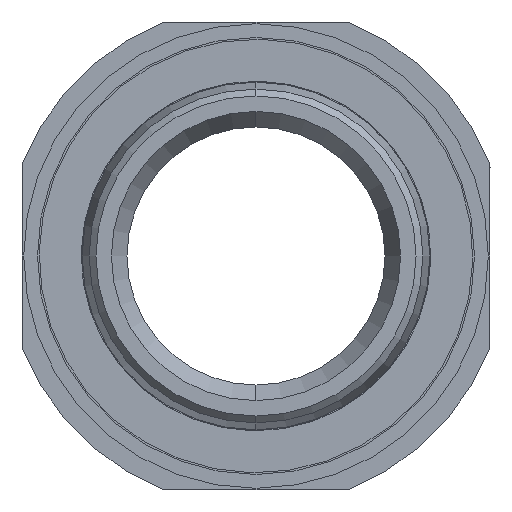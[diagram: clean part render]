
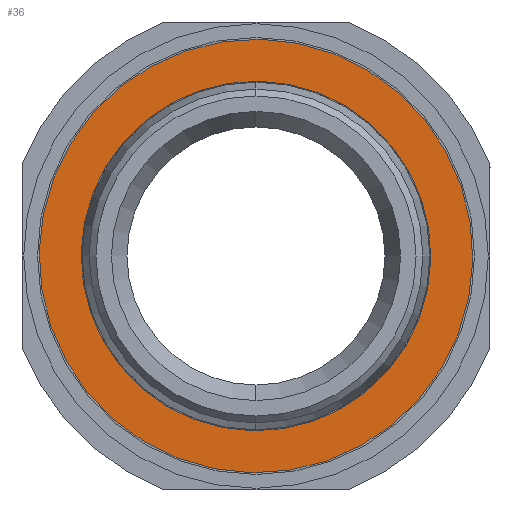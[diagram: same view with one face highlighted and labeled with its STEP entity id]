
A CAD part, left-side view. The second image highlights one B-rep face of the part: STEP entity #36.
In plain terms, the highlighted planar face has unit normal (-1, 0, 0).
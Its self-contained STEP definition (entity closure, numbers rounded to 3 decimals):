
#15 = VERTEX_POINT ( 'NONE', #1581 ) ;
#36 = ADVANCED_FACE ( 'NONE', ( #571, #518 ), #1675, .F. ) ;
#136 = CIRCLE ( 'NONE', #422, 25.4 ) ;
#178 = CIRCLE ( 'NONE', #351, 25.4 ) ;
#239 = CIRCLE ( 'NONE', #382, 31.5 ) ;
#274 = CIRCLE ( 'NONE', #379, 31.5 ) ;
#351 = AXIS2_PLACEMENT_3D ( 'NONE', #1278, #1131, #1169 ) ;
#379 = AXIS2_PLACEMENT_3D ( 'NONE', #1386, #991, #1094 ) ;
#382 = AXIS2_PLACEMENT_3D ( 'NONE', #1244, #1238, #1237 ) ;
#422 = AXIS2_PLACEMENT_3D ( 'NONE', #1399, #1097, #1052 ) ;
#462 = VERTEX_POINT ( 'NONE', #1651 ) ;
#467 = VERTEX_POINT ( 'NONE', #1479 ) ;
#512 = ORIENTED_EDGE ( 'NONE', *, *, #1886, .F. ) ;
#513 = EDGE_LOOP ( 'NONE', ( #825, #512 ) ) ;
#518 = FACE_BOUND ( 'NONE', #673, .T. ) ;
#571 = FACE_OUTER_BOUND ( 'NONE', #513, .T. ) ;
#673 = EDGE_LOOP ( 'NONE', ( #692, #750 ) ) ;
#692 = ORIENTED_EDGE ( 'NONE', *, *, #1785, .T. ) ;
#750 = ORIENTED_EDGE ( 'NONE', *, *, #1776, .T. ) ;
#825 = ORIENTED_EDGE ( 'NONE', *, *, #1866, .F. ) ;
#871 = VERTEX_POINT ( 'NONE', #1644 ) ;
#991 = DIRECTION ( 'NONE',  ( 1., 0., 0. ) ) ;
#1052 = DIRECTION ( 'NONE',  ( 0., -0.324, -0.946 ) ) ;
#1094 = DIRECTION ( 'NONE',  ( 0., -0.324, -0.946 ) ) ;
#1097 = DIRECTION ( 'NONE',  ( 1., 0., 0. ) ) ;
#1131 = DIRECTION ( 'NONE',  ( 1., 0., 0. ) ) ;
#1169 = DIRECTION ( 'NONE',  ( 0., -0.324, -0.946 ) ) ;
#1237 = DIRECTION ( 'NONE',  ( 0., -0.324, -0.946 ) ) ;
#1238 = DIRECTION ( 'NONE',  ( 1., 0., 0. ) ) ;
#1244 = CARTESIAN_POINT ( 'NONE',  ( -510., 0., 0. ) ) ;
#1278 = CARTESIAN_POINT ( 'NONE',  ( -510., 0., 0. ) ) ;
#1386 = CARTESIAN_POINT ( 'NONE',  ( -510., 0., 0. ) ) ;
#1399 = CARTESIAN_POINT ( 'NONE',  ( -510., 0., 0. ) ) ;
#1479 = CARTESIAN_POINT ( 'NONE',  ( -510., 8.241, 24.026 ) ) ;
#1581 = CARTESIAN_POINT ( 'NONE',  ( -510., 10.22, 29.796 ) ) ;
#1596 = CARTESIAN_POINT ( 'NONE',  ( -510., 0., 0. ) ) ;
#1644 = CARTESIAN_POINT ( 'NONE',  ( -510., -10.22, -29.796 ) ) ;
#1651 = CARTESIAN_POINT ( 'NONE',  ( -510., -8.241, -24.026 ) ) ;
#1673 = DIRECTION ( 'NONE',  ( 1., 0., 0. ) ) ;
#1675 = PLANE ( 'NONE',  #1907 ) ;
#1682 = DIRECTION ( 'NONE',  ( 0., -0.324, -0.946 ) ) ;
#1776 = EDGE_CURVE ( 'NONE', #462, #467, #136, .T. ) ;
#1785 = EDGE_CURVE ( 'NONE', #467, #462, #178, .T. ) ;
#1866 = EDGE_CURVE ( 'NONE', #15, #871, #274, .T. ) ;
#1886 = EDGE_CURVE ( 'NONE', #871, #15, #239, .T. ) ;
#1907 = AXIS2_PLACEMENT_3D ( 'NONE', #1596, #1673, #1682 ) ;
